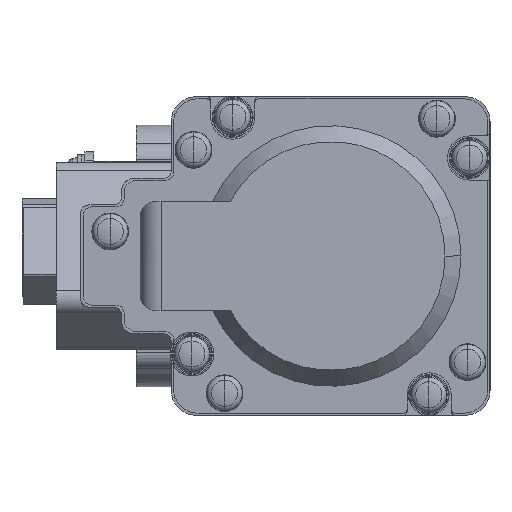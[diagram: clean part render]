
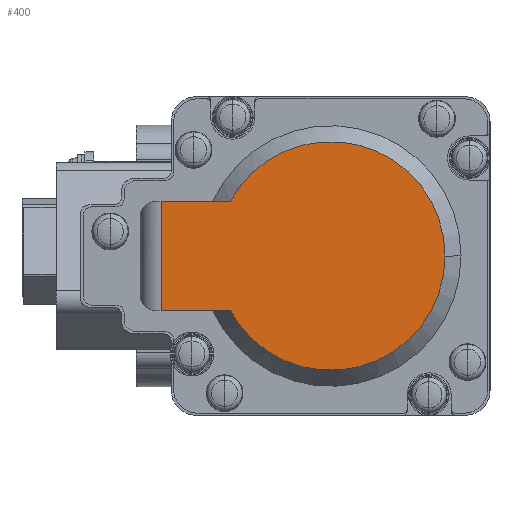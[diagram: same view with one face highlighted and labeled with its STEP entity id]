
A CAD part, left-side view. The second image highlights one B-rep face of the part: STEP entity #400.
In plain terms, the highlighted planar face has unit normal (-1, 0, 0).
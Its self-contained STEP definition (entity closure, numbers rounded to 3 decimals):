
#400 = ADVANCED_FACE( '', ( #1492 ), #1493, .T. );
#1492 = FACE_OUTER_BOUND( '', #3060, .T. );
#1493 = PLANE( '', #3061 );
#3060 = EDGE_LOOP( '', ( #6589, #6590, #6591, #6592, #6593 ) );
#3061 = AXIS2_PLACEMENT_3D( '', #6594, #6595, #6596 );
#6589 = ORIENTED_EDGE( '', *, *, #11027, .T. );
#6590 = ORIENTED_EDGE( '', *, *, #11033, .T. );
#6591 = ORIENTED_EDGE( '', *, *, #11028, .T. );
#6592 = ORIENTED_EDGE( '', *, *, #10220, .T. );
#6593 = ORIENTED_EDGE( '', *, *, #11024, .T. );
#6594 = CARTESIAN_POINT( '', ( -105., 20.75, 15. ) );
#6595 = DIRECTION( '', ( -1., 0., 0. ) );
#6596 = DIRECTION( '', ( 0., 1., 0. ) );
#10220 = EDGE_CURVE( '', #12340, #12337, #12341, .T. );
#11024 = EDGE_CURVE( '', #12337, #13712, #13714, .T. );
#11027 = EDGE_CURVE( '', #13712, #13717, #13719, .T. );
#11028 = EDGE_CURVE( '', #13720, #12340, #13721, .T. );
#11033 = EDGE_CURVE( '', #13717, #13720, #13727, .T. );
#12337 = VERTEX_POINT( '', #15674 );
#12340 = VERTEX_POINT( '', #15678 );
#12341 = CIRCLE( '', #15679, 14. );
#13712 = VERTEX_POINT( '', #17549 );
#13714 = CIRCLE( '', #17560, 14. );
#13717 = VERTEX_POINT( '', #17564 );
#13719 = LINE( '', #17566, #17567 );
#13720 = VERTEX_POINT( '', #17568 );
#13721 = LINE( '', #17569, #17570 );
#13727 = LINE( '', #17611, #17612 );
#15674 = CARTESIAN_POINT( '', ( -105., -14., 0. ) );
#15678 = CARTESIAN_POINT( '', ( -105., 12.293, -6.7 ) );
#15679 = AXIS2_PLACEMENT_3D( '', #20135, #20136, #20137 );
#17549 = CARTESIAN_POINT( '', ( -105., 12.293, 6.7 ) );
#17560 = AXIS2_PLACEMENT_3D( '', #21561, #21562, #21563 );
#17564 = CARTESIAN_POINT( '', ( -105., 20.75, 6.7 ) );
#17566 = CARTESIAN_POINT( '', ( -105., 21.05, 6.7 ) );
#17567 = VECTOR( '', #21568, 1. );
#17568 = CARTESIAN_POINT( '', ( -105., 20.75, -6.7 ) );
#17569 = CARTESIAN_POINT( '', ( -105., 15.907, -6.7 ) );
#17570 = VECTOR( '', #21569, 1. );
#17611 = CARTESIAN_POINT( '', ( -105., 20.75, 15. ) );
#17612 = VECTOR( '', #21574, 1. );
#20135 = CARTESIAN_POINT( '', ( -105., 0., 0. ) );
#20136 = DIRECTION( '', ( -1., 0., 0. ) );
#20137 = DIRECTION( '', ( 0., 1., 0. ) );
#21561 = CARTESIAN_POINT( '', ( -105., 0., 0. ) );
#21562 = DIRECTION( '', ( -1., 0., 0. ) );
#21563 = DIRECTION( '', ( 0., 1., 0. ) );
#21568 = DIRECTION( '', ( 0., 1., 0. ) );
#21569 = DIRECTION( '', ( 0., -1., 0. ) );
#21574 = DIRECTION( '', ( 0., 0., -1. ) );
